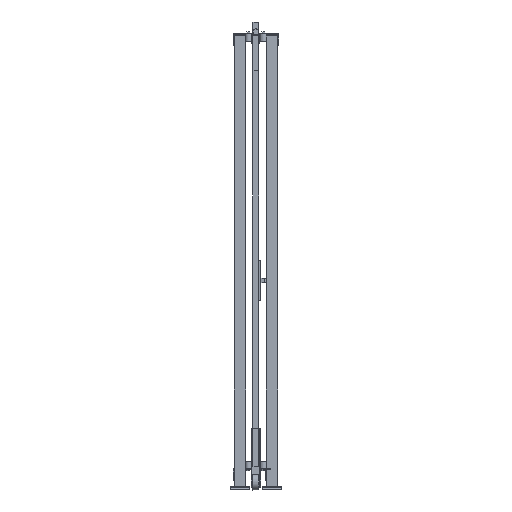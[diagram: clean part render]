
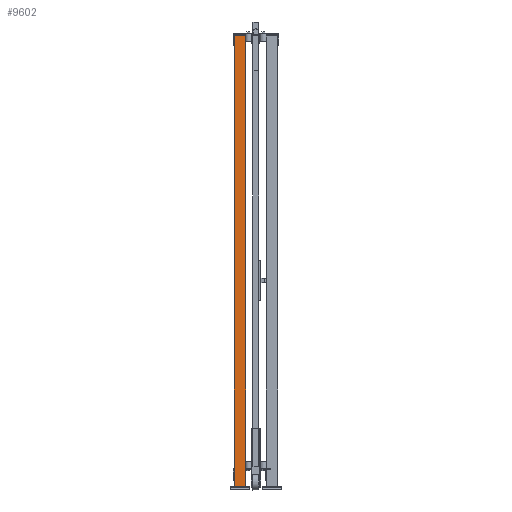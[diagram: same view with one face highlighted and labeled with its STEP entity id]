
A CAD part, left-side view. The second image highlights one B-rep face of the part: STEP entity #9602.
In plain terms, the highlighted planar face has unit normal (-1, 0, 0) as drawn and (0, 1, 0) by its records, which use the part's own axes.
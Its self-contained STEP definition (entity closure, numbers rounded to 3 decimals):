
#996=FACE_OUTER_BOUND('',#1718,.T.);
#1718=EDGE_LOOP('',(#5952,#5953,#5954,#5955));
#2529=VERTEX_POINT('',#19745);
#2530=VERTEX_POINT('',#19747);
#2532=VERTEX_POINT('',#19753);
#2535=VERTEX_POINT('',#19758);
#3889=EDGE_CURVE('',#2529,#2530,#11072,.T.);
#3895=EDGE_CURVE('',#2535,#2532,#11078,.T.);
#3898=EDGE_CURVE('',#2530,#2535,#11081,.T.);
#3899=EDGE_CURVE('',#2529,#2532,#11082,.T.);
#5952=ORIENTED_EDGE('',*,*,#3899,.T.);
#5953=ORIENTED_EDGE('',*,*,#3895,.F.);
#5954=ORIENTED_EDGE('',*,*,#3898,.F.);
#5955=ORIENTED_EDGE('',*,*,#3889,.F.);
#8948=PLANE('',#14183);
#9602=ADVANCED_FACE('',(#996),#8948,.F.);
#11072=LINE('',#19748,#12709);
#11078=LINE('',#19760,#12715);
#11081=LINE('',#19765,#12718);
#11082=LINE('',#19767,#12719);
#12709=VECTOR('',#15700,1.);
#12715=VECTOR('',#15708,1.);
#12718=VECTOR('',#15715,1.);
#12719=VECTOR('',#15718,1.);
#14183=AXIS2_PLACEMENT_3D('',#19766,#15716,#15717);
#15700=DIRECTION('',(-1.,0.,0.));
#15708=DIRECTION('',(1.,0.,0.));
#15715=DIRECTION('',(0.,0.,-1.));
#15716=DIRECTION('center_axis',(0.,-1.,0.));
#15717=DIRECTION('ref_axis',(0.,0.,-1.));
#15718=DIRECTION('',(0.,0.,-1.));
#19745=CARTESIAN_POINT('',(30.,30.,2320.));
#19747=CARTESIAN_POINT('',(-30.,30.,2320.));
#19748=CARTESIAN_POINT('',(0.,30.,2320.));
#19753=CARTESIAN_POINT('',(30.,30.,20.));
#19758=CARTESIAN_POINT('',(-30.,30.,20.));
#19760=CARTESIAN_POINT('',(0.,30.,20.));
#19765=CARTESIAN_POINT('',(-30.,30.,1170.));
#19766=CARTESIAN_POINT('Origin',(0.,30.,
1170.));
#19767=CARTESIAN_POINT('',(30.,30.,1170.));
